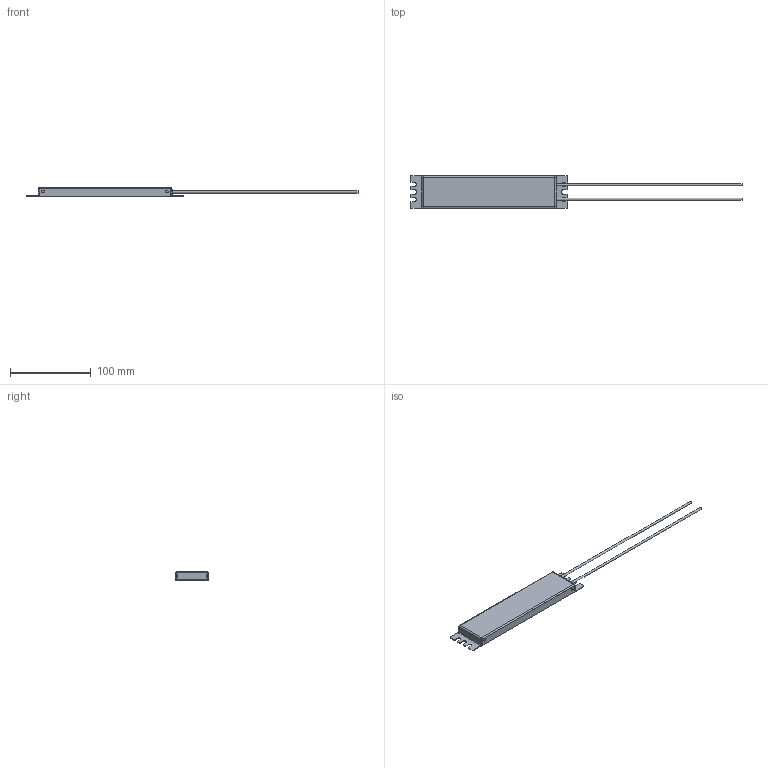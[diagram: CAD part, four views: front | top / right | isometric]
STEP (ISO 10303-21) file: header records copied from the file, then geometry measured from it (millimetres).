
FILE_DESCRIPTION(/* description */ (''),/* implementation_level */ '2;1');
FILE_NAME(/* name */ 'C:\_Vault\Dati\CATALOGO\RFX\RFX100-150-200-300\RFX200.stp',/* time_stamp */ '2014-03-25T21:01:55+01:00',/* author */ ('andreac'),/* organization */ (''),/* preprocessor_version */ 'ST-DEVELOPER v15.2',/* originating_system */ 'Autodesk Inventor 2014',/* authorisation */ '');
FILE_SCHEMA (('AUTOMOTIVE_DESIGN { 1 0 10303 214 3 1 1 }'));
Length unit declared in the file: millimetre
Products named in the file (1): RFX200
Bounding box: 410 x 40 x 11 mm (x, y, z)
Volume: 19058.9 mm3; surface area: 45625.4 mm2
Topology: 6 solids, 6 shells, 156 faces, 384 edges, 240 vertices
Faces by surface type: plane 102, cylinder 54
Full cylindrical faces by diameter (mm): 2.7 x2, 3 x8, 4.8 x2, 6 x2, 7 x2
Entity records: 4646 total; most frequent: DIRECTION 786, CARTESIAN_POINT 749, ORIENTED_EDGE 728, EDGE_CURVE 360, AXIS2_PLACEMENT_3D 269, LINE 248, VECTOR 248, VERTEX_POINT 232
